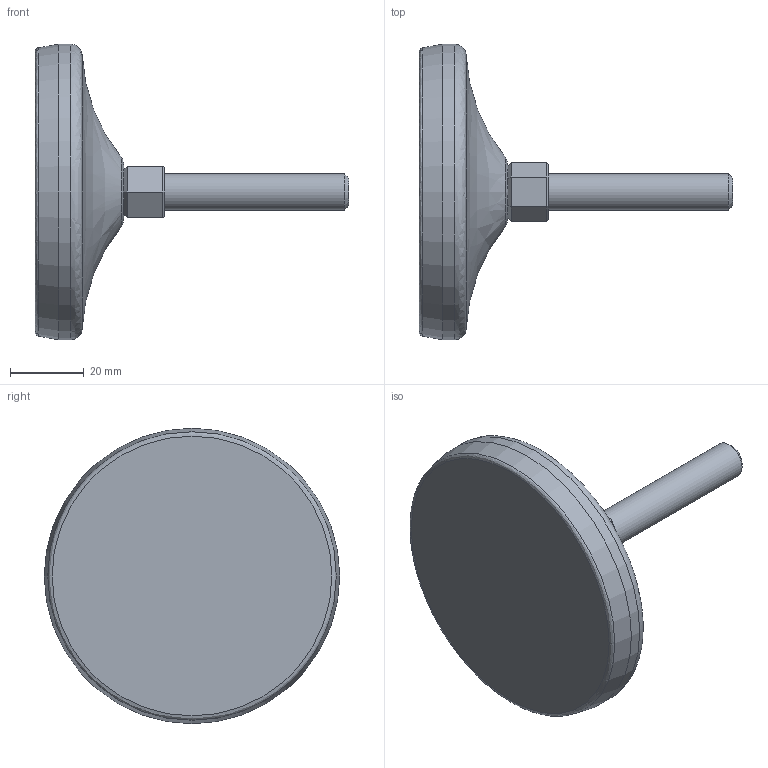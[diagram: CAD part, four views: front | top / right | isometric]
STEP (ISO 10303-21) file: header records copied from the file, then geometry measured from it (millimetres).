
FILE_DESCRIPTION(('STEP AP203'),'2;1');
FILE_NAME('26000.stp','2015-07-10T11:02:57',(''),(''),'2008.1.107','THINKDESIGN','');
FILE_SCHEMA(('CONFIG_CONTROL_DESIGN'));
Length unit declared in the file: millimetre
Bounding box: 85 x 80 x 80 mm (x, y, z)
Volume: 81882.3 mm3; surface area: 15364.1 mm2
Topology: 3 solids, 3 shells, 32 faces, 70 edges, 44 vertices
Faces by surface type: bspline 18, plane 12, cylinder 2
Full cylindrical faces by diameter (mm): 10 x1, 80 x1
Entity records: 1296 total; most frequent: CARTESIAN_POINT 538, ORIENTED_EDGE 140, DIRECTION 122, EDGE_CURVE 70, VECTOR 46, LINE 46, VERTEX_POINT 44, AXIS2_PLACEMENT_3D 38
